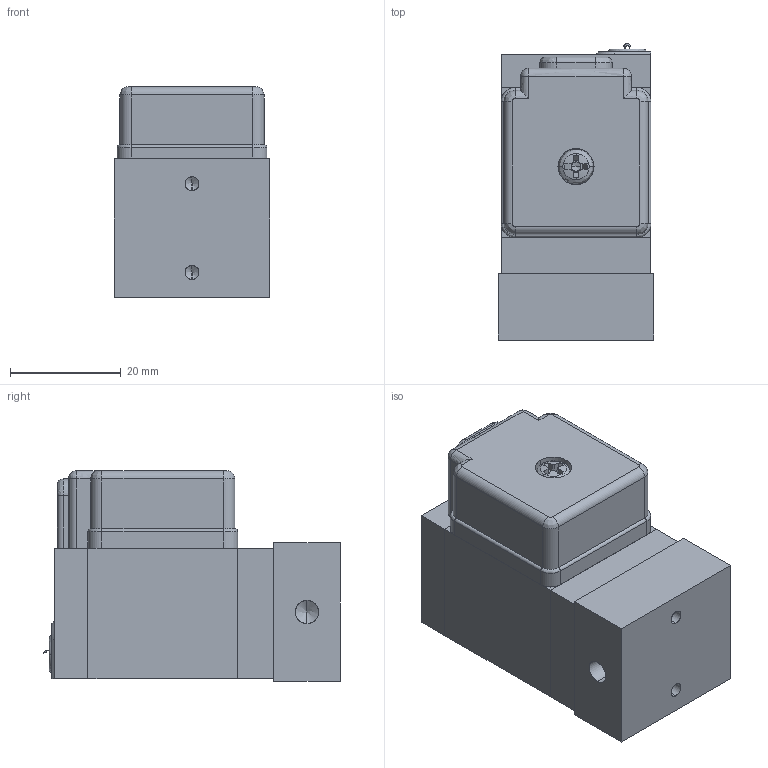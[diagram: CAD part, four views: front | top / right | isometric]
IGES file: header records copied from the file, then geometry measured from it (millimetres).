
Start section: SolidWorks IGES file using analytic representation for surfaces
Global section: file name: C:\Users\Toshiba\Desktop\SS231-M5-#G#.IGS; native system: SolidWorks 2014; preprocessor: SolidWorks 2014; author: Toshiba; date: 160801.111609; units: millimetre
Bounding box: 28 x 53.47 x 38 mm (x, y, z)
Surface area: 15173.4 mm2 (no closed solid volume)
Topology: 0 solids, 0 shells, 240 faces, 2178 edges, 2163 vertices
Faces by surface type: bspline 137, revolution 103
